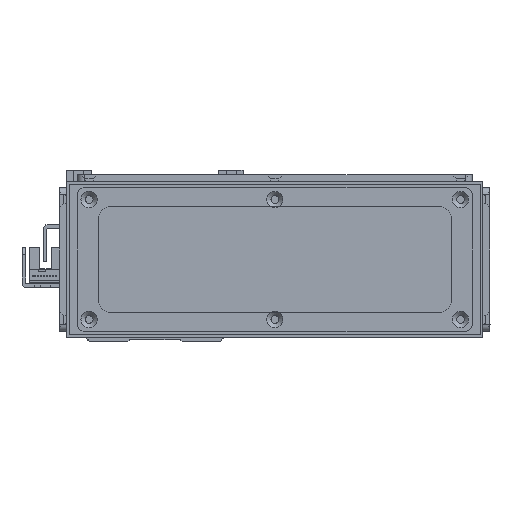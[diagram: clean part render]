
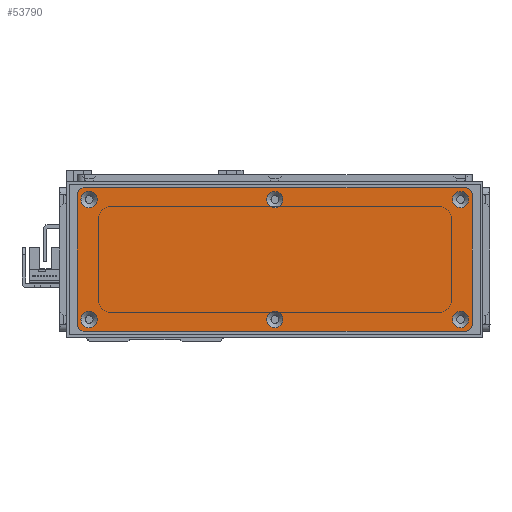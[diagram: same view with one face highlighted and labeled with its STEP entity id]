
A CAD part, left-side view. The second image highlights one B-rep face of the part: STEP entity #53790.
In plain terms, the highlighted planar face has unit normal (-1, 0, 0) as drawn and (0, 0, 1) by its records, which use the part's own axes.
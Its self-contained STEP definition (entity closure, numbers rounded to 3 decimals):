
#2402=FACE_BOUND('',#9437,.T.);
#2403=FACE_BOUND('',#9438,.T.);
#2404=FACE_BOUND('',#9439,.T.);
#2405=FACE_BOUND('',#9440,.T.);
#2406=FACE_BOUND('',#9441,.T.);
#2407=FACE_BOUND('',#9442,.T.);
#3032=PLANE('',#58084);
#6284=FACE_OUTER_BOUND('',#9436,.T.);
#9436=EDGE_LOOP('',(#43200,#43201,#43202,#43203,#43204,#43205,#43206,#43207));
#9437=EDGE_LOOP('',(#43208));
#9438=EDGE_LOOP('',(#43209));
#9439=EDGE_LOOP('',(#43210));
#9440=EDGE_LOOP('',(#43211));
#9441=EDGE_LOOP('',(#43212));
#9442=EDGE_LOOP('',(#43213));
#12903=LINE('',#80880,#19097);
#12906=LINE('',#80888,#19100);
#12909=LINE('',#80896,#19103);
#12912=LINE('',#80903,#19106);
#19097=VECTOR('',#66069,10.);
#19100=VECTOR('',#66078,10.);
#19103=VECTOR('',#66087,10.);
#19106=VECTOR('',#66096,10.);
#24704=CIRCLE('',#58038,3.45);
#24707=CIRCLE('',#58043,3.45);
#24710=CIRCLE('',#58048,3.45);
#24713=CIRCLE('',#58053,3.45);
#24716=CIRCLE('',#58058,3.45);
#24719=CIRCLE('',#58063,3.45);
#24726=CIRCLE('',#58073,3.);
#24727=CIRCLE('',#58076,3.);
#24728=CIRCLE('',#58079,3.);
#24729=CIRCLE('',#58082,3.);
#26773=VERTEX_POINT('',#80796);
#26776=VERTEX_POINT('',#80806);
#26779=VERTEX_POINT('',#80816);
#26782=VERTEX_POINT('',#80826);
#26785=VERTEX_POINT('',#80836);
#26788=VERTEX_POINT('',#80846);
#26799=VERTEX_POINT('',#80873);
#26800=VERTEX_POINT('',#80875);
#26801=VERTEX_POINT('',#80879);
#26802=VERTEX_POINT('',#80883);
#26803=VERTEX_POINT('',#80887);
#26804=VERTEX_POINT('',#80891);
#26805=VERTEX_POINT('',#80895);
#26806=VERTEX_POINT('',#80899);
#32742=EDGE_CURVE('',#26773,#26773,#24704,.T.);
#32747=EDGE_CURVE('',#26776,#26776,#24707,.T.);
#32752=EDGE_CURVE('',#26779,#26779,#24710,.T.);
#32757=EDGE_CURVE('',#26782,#26782,#24713,.T.);
#32762=EDGE_CURVE('',#26785,#26785,#24716,.T.);
#32767=EDGE_CURVE('',#26788,#26788,#24719,.T.);
#32781=EDGE_CURVE('',#26800,#26799,#24726,.T.);
#32783=EDGE_CURVE('',#26801,#26800,#12903,.T.);
#32785=EDGE_CURVE('',#26802,#26801,#24727,.T.);
#32787=EDGE_CURVE('',#26803,#26802,#12906,.T.);
#32789=EDGE_CURVE('',#26804,#26803,#24728,.T.);
#32791=EDGE_CURVE('',#26805,#26804,#12909,.T.);
#32793=EDGE_CURVE('',#26806,#26805,#24729,.T.);
#32795=EDGE_CURVE('',#26799,#26806,#12912,.T.);
#43200=ORIENTED_EDGE('',*,*,#32795,.T.);
#43201=ORIENTED_EDGE('',*,*,#32793,.T.);
#43202=ORIENTED_EDGE('',*,*,#32791,.T.);
#43203=ORIENTED_EDGE('',*,*,#32789,.T.);
#43204=ORIENTED_EDGE('',*,*,#32787,.T.);
#43205=ORIENTED_EDGE('',*,*,#32785,.T.);
#43206=ORIENTED_EDGE('',*,*,#32783,.T.);
#43207=ORIENTED_EDGE('',*,*,#32781,.T.);
#43208=ORIENTED_EDGE('',*,*,#32742,.T.);
#43209=ORIENTED_EDGE('',*,*,#32747,.T.);
#43210=ORIENTED_EDGE('',*,*,#32752,.T.);
#43211=ORIENTED_EDGE('',*,*,#32757,.T.);
#43212=ORIENTED_EDGE('',*,*,#32762,.T.);
#43213=ORIENTED_EDGE('',*,*,#32767,.T.);
#53790=ADVANCED_FACE('',(#6284,#2402,#2403,#2404,#2405,#2406,#2407),#3032,
 .T.);
#58038=AXIS2_PLACEMENT_3D('',#80797,#65977,#65978);
#58043=AXIS2_PLACEMENT_3D('',#80807,#65989,#65990);
#58048=AXIS2_PLACEMENT_3D('',#80817,#66001,#66002);
#58053=AXIS2_PLACEMENT_3D('',#80827,#66013,#66014);
#58058=AXIS2_PLACEMENT_3D('',#80837,#66025,#66026);
#58063=AXIS2_PLACEMENT_3D('',#80847,#66037,#66038);
#58073=AXIS2_PLACEMENT_3D('',#80876,#66064,#66065);
#58076=AXIS2_PLACEMENT_3D('',#80884,#66073,#66074);
#58079=AXIS2_PLACEMENT_3D('',#80892,#66082,#66083);
#58082=AXIS2_PLACEMENT_3D('',#80900,#66091,#66092);
#58084=AXIS2_PLACEMENT_3D('',#80904,#66097,#66098);
#65977=DIRECTION('center_axis',(0.,0.,-1.));
#65978=DIRECTION('ref_axis',(1.,0.,0.));
#65989=DIRECTION('center_axis',(0.,0.,-1.));
#65990=DIRECTION('ref_axis',(1.,0.,0.));
#66001=DIRECTION('center_axis',(0.,0.,-1.));
#66002=DIRECTION('ref_axis',(1.,0.,0.));
#66013=DIRECTION('center_axis',(0.,0.,-1.));
#66014=DIRECTION('ref_axis',(1.,0.,0.));
#66025=DIRECTION('center_axis',(0.,0.,-1.));
#66026=DIRECTION('ref_axis',(1.,0.,0.));
#66037=DIRECTION('center_axis',(0.,0.,-1.));
#66038=DIRECTION('ref_axis',(1.,0.,0.));
#66064=DIRECTION('center_axis',(0.,0.,1.));
#66065=DIRECTION('ref_axis',(-1.,0.,0.));
#66069=DIRECTION('',(0.,1.,0.));
#66073=DIRECTION('center_axis',(0.,0.,1.));
#66074=DIRECTION('ref_axis',(0.,1.,0.));
#66078=DIRECTION('',(1.,0.,0.));
#66082=DIRECTION('center_axis',(0.,0.,1.));
#66083=DIRECTION('ref_axis',(1.,0.,0.));
#66087=DIRECTION('',(0.,-1.,0.));
#66091=DIRECTION('center_axis',(0.,0.,1.));
#66092=DIRECTION('ref_axis',(0.,-1.,0.));
#66096=DIRECTION('',(-1.,0.,0.));
#66097=DIRECTION('center_axis',(0.,0.,1.));
#66098=DIRECTION('ref_axis',(1.,0.,0.));
#80796=CARTESIAN_POINT('',(-3.45,25.5,1.5));
#80797=CARTESIAN_POINT('Origin',(0.,25.5,1.5));
#80806=CARTESIAN_POINT('',(75.55,-25.5,1.5));
#80807=CARTESIAN_POINT('Origin',(79.,-25.5,1.5));
#80816=CARTESIAN_POINT('',(-82.45,25.5,1.5));
#80817=CARTESIAN_POINT('Origin',(-79.,25.5,1.5));
#80826=CARTESIAN_POINT('',(75.55,25.5,1.5));
#80827=CARTESIAN_POINT('Origin',(79.,25.5,1.5));
#80836=CARTESIAN_POINT('',(-82.45,-25.5,1.5));
#80837=CARTESIAN_POINT('Origin',(-79.,-25.5,1.5));
#80846=CARTESIAN_POINT('',(-3.45,-25.5,1.5));
#80847=CARTESIAN_POINT('Origin',(0.,-25.5,1.5));
#80873=CARTESIAN_POINT('',(81.,30.5,1.5));
#80875=CARTESIAN_POINT('',(84.,27.5,1.5));
#80876=CARTESIAN_POINT('Origin',(81.,27.5,1.5));
#80879=CARTESIAN_POINT('',(84.,-27.5,1.5));
#80880=CARTESIAN_POINT('',(84.,27.5,1.5));
#80883=CARTESIAN_POINT('',(81.,-30.5,1.5));
#80884=CARTESIAN_POINT('Origin',(81.,-27.5,1.5));
#80887=CARTESIAN_POINT('',(-81.,-30.5,1.5));
#80888=CARTESIAN_POINT('',(81.,-30.5,1.5));
#80891=CARTESIAN_POINT('',(-84.,-27.5,1.5));
#80892=CARTESIAN_POINT('Origin',(-81.,-27.5,1.5));
#80895=CARTESIAN_POINT('',(-84.,27.5,1.5));
#80896=CARTESIAN_POINT('',(-84.,-27.5,1.5));
#80899=CARTESIAN_POINT('',(-81.,30.5,1.5));
#80900=CARTESIAN_POINT('Origin',(-81.,27.5,1.5));
#80903=CARTESIAN_POINT('',(-81.,30.5,1.5));
#80904=CARTESIAN_POINT('Origin',(0.,0.,
1.5));
